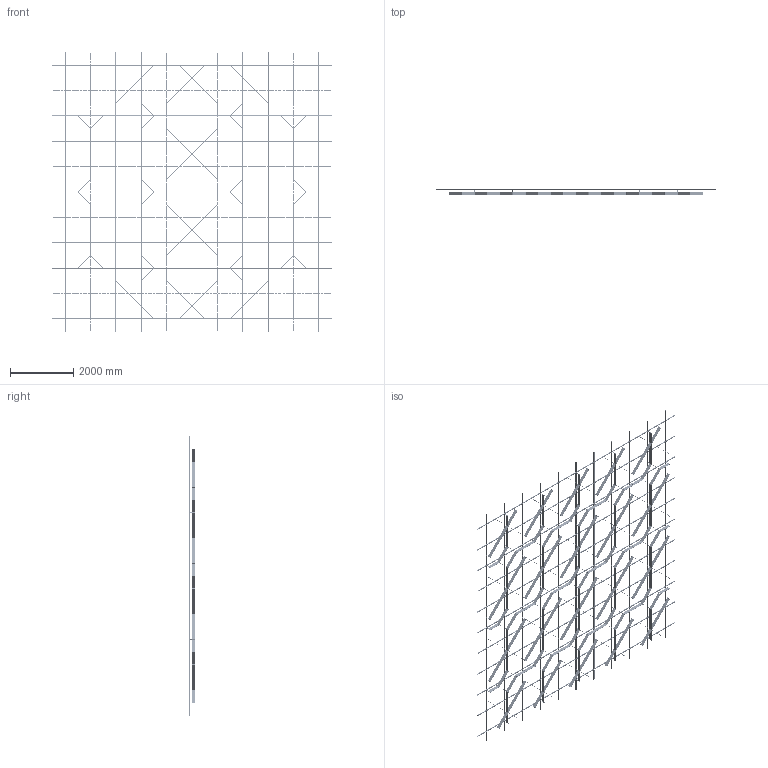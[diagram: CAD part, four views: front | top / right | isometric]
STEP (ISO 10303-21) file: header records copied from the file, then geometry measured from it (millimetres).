
FILE_DESCRIPTION (( 'STEP AP203' ), '1' );
FILE_NAME ('8 ìèäè ñ ïñ.step', '2025-11-26T11:34:09', ( '' ), ( '' ), 'SwSTEP 2.0', 'SolidWorks 2020', '' );
FILE_SCHEMA (( 'CONFIG_CONTROL_DESIGN' ));
Length unit declared in the file: millimetre
Products named in the file (5): 8 ìèäè ñ ïñ; SS.SEMA.2400 - Ñèìà-ïðîôèëü — îáðåçàí 1600; Ñèñòåìà â çîíå 8000õ8000; Var8; SS.SEMA.2400 - Ñèìà-ïðîôèëü
Assembly tree (90 placements, depth 3):
  8 ìèäè ñ ïñ
    Ñèñòåìà â çîíå 8000õ8000
      SS.SEMA.2400 - Ñèìà-ïðîôèëü  x66
      SS.SEMA.2400 - Ñèìà-ïðîôèëü — îáðåçàí 1600  x22
    Var8
Bounding box: 8800 x 205 x 8800 mm (x, y, z)
Volume: 141843534.1 mm3; surface area: 61821112.3 mm2
Topology: 954 solids, 954 shells, 20384 faces, 54020 edges, 35544 vertices
Faces by surface type: cylinder 13170, plane 7214
Entity records: 103827 total; most frequent: CARTESIAN_POINT 23910, DIRECTION 15370, ORIENTED_EDGE 14888, EDGE_CURVE 7444, AXIS2_PLACEMENT_3D 7436, VERTEX_POINT 4952, EDGE_LOOP 4390, FACE_OUTER_BOUND 4228
